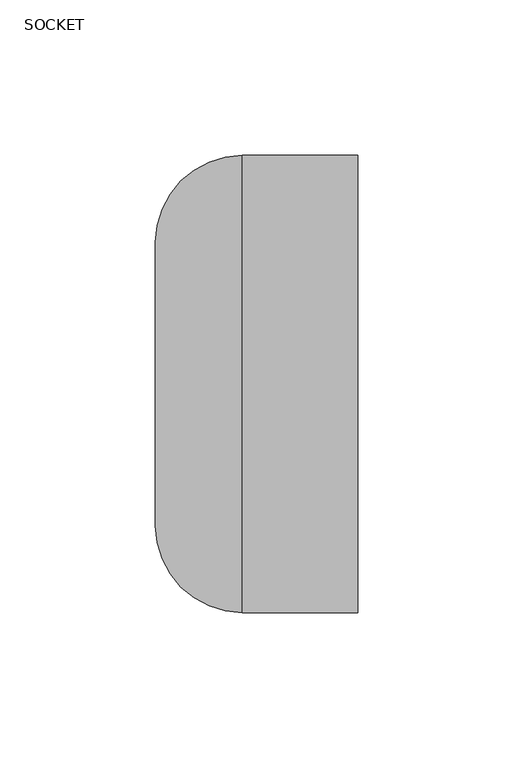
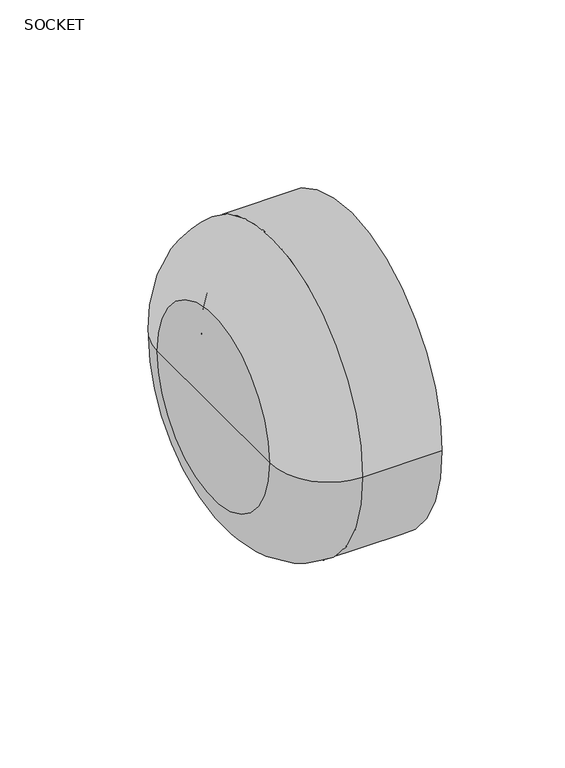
"""IFC4 building model written with IfcOpenShell, lengths in millimetres: pipe fitting geometry, Aquatherm - End Cap Socket : SOCKET."""

from ifc_helpers import new_model, si_unit, point, frame, origin, place, context, project, spatial, polyline, circle_curve, ellipse_curve, trimmed, source, transform, mapped, element, save
from ifc_brep_helpers import plane_surface, cylinder_surface, revolved_surface, advanced_brep


def socket_39f1f0a6(model_context):
    return source(origin(), model_context, "Body", "AdvancedBrep", [
        advanced_brep(
        [(-65.024, 0.0, 0.0), (-65.024, 45.593, 0.0), (-65.024, -45.593, 0.0), (-39.5426692, -54.991, 0.0), (-39.5426692, 54.991, 0.0), (-39.5426692, 50.8456692, 0.0), (-39.5426692, -50.8456692, 0.0), (0.0, -54.991, 0.0), (0.0, 54.991, 0.0), (0.0, -73.533, 0.0), (0.0, 73.533, 0.0), (-37.084, -73.533, 0.0), (-37.084, 73.533, 0.0), (-42.3366692, -48.0516692, 0.0), (-42.3366692, 48.0516692, 0.0), (-42.3366692, 0.0, 0.0)],
        [
            (0, 1),
            (1, 2, circle_curve(frame((-65.024, 0.0, 0.0), z_axis=(-1.0, 0.0, 0.0), x_axis=(0.0, 1.0, 0.0)), 45.593)),
            (2, 0),
            (2, 1, circle_curve(frame((-65.024, 0.0, 0.0), z_axis=(-1.0, 0.0, 0.0), x_axis=(0.0, 1.0, 0.0)), 45.593)),
            (3, 4, circle_curve(frame((-39.5426692, 0.0, 0.0), z_axis=(1.0, 0.0, 0.0), x_axis=(0.0, 1.0, 0.0)), 54.991)),
            (4, 5),
            (5, 6, circle_curve(frame((-39.5426692, 0.0, 0.0), z_axis=(-1.0, 0.0, 0.0), x_axis=(0.0, 1.0, 0.0)), 50.8456692)),
            (6, 3),
            (4, 3, circle_curve(frame((-39.5426692, 0.0, 0.0), z_axis=(1.0, 0.0, 0.0), x_axis=(0.0, 1.0, 0.0)), 54.991)),
            (6, 5, circle_curve(frame((-39.5426692, 0.0, 0.0), z_axis=(-1.0, 0.0, 0.0), x_axis=(0.0, 1.0, 0.0)), 50.8456692)),
            (7, 8, circle_curve(frame((0.0, 0.0, 0.0), z_axis=(1.0, 0.0, 0.0), x_axis=(0.0, 1.0, 0.0)), 54.991)),
            (8, 4),
            (3, 7),
            (8, 7, circle_curve(frame((0.0, 0.0, 0.0), z_axis=(1.0, 0.0, 0.0), x_axis=(0.0, 1.0, 0.0)), 54.991)),
            (9, 10, circle_curve(frame((0.0, 0.0, 0.0), z_axis=(1.0, 0.0, 0.0), x_axis=(0.0, 1.0, 0.0)), 73.533)),
            (10, 8),
            (7, 9),
            (10, 9, circle_curve(frame((0.0, 0.0, 0.0), z_axis=(1.0, 0.0, 0.0), x_axis=(0.0, 1.0, 0.0)), 73.533)),
            (11, 12, circle_curve(frame((-37.084, 0.0, 0.0), z_axis=(1.0, 0.0, 0.0), x_axis=(0.0, 1.0, 0.0)), 73.533)),
            (12, 10),
            (9, 11),
            (12, 11, circle_curve(frame((-37.084, 0.0, 0.0), z_axis=(1.0, 0.0, 0.0), x_axis=(0.0, 1.0, 0.0)), 73.533)),
            (1, 12, circle_curve(frame((-37.084, 45.593, 0.0), z_axis=(0.0, 0.0, -1.0), x_axis=(1.0, 0.0, 0.0)), 27.94)),
            (11, 2, circle_curve(frame((-37.084, -45.593, 0.0), z_axis=(0.0, 0.0, -1.0), x_axis=(1.0, 0.0, 0.0)), 27.94)),
            (13, 14, circle_curve(frame((-42.3366692, 0.0, 0.0), z_axis=(1.0, 0.0, 0.0), x_axis=(0.0, 1.0, 0.0)), 48.0516692)),
            (14, 15),
            (15, 13),
            (14, 13, circle_curve(frame((-42.3366692, 0.0, 0.0), z_axis=(1.0, 0.0, 0.0), x_axis=(0.0, 1.0, 0.0)), 48.0516692)),
            (5, 14, circle_curve(frame((-39.5426692, 48.0516692, 0.0), z_axis=(0.0, 0.0, 1.0), x_axis=(1.0, 0.0, 0.0)), 2.794)),
            (13, 6, circle_curve(frame((-39.5426692, -48.0516692, 0.0), z_axis=(0.0, 0.0, 1.0), x_axis=(1.0, 0.0, 0.0)), 2.794)),
        ],
        [
            plane_surface(frame((-65.024, 0.0, 0.0), z_axis=(-1.0, 0.0, 0.0), x_axis=(0.0, 1.0, 0.0))),
            plane_surface(frame((-39.5426692, 0.0, 0.0), z_axis=(1.0, 0.0, 0.0), x_axis=(0.0, 1.0, 0.0))),
            revolved_surface(polyline([(-39.5426692, 54.991, 0.0), (0.0, 54.991, 0.0)]), (-42.3366692, 0.0, 0.0), (-1.0, 0.0, 0.0)),
            plane_surface(frame((0.0, 0.0, 0.0), z_axis=(1.0, 0.0, 0.0), x_axis=(0.0, 1.0, 0.0))),
            cylinder_surface(frame((-42.3366692, 0.0, 0.0), z_axis=(-1.0, 0.0, 0.0), x_axis=(0.0, 1.0, 0.0)), 73.533),
            revolved_surface(trimmed(ellipse_curve(frame((-37.084, 45.593, 0.0), z_axis=(0.0, 0.0, 1.0), x_axis=(1.0, 0.0, 0.0)), 27.94, 27.94), [point((-37.084, 73.533, 0.0))], [point((-65.024, 45.593, 0.0))], True, "CARTESIAN"), (-42.3366692, 0.0, 0.0), (-1.0, 0.0, 0.0)),
            plane_surface(frame((-42.3366692, 0.0, 0.0), z_axis=(1.0, 0.0, 0.0), x_axis=(0.0, 1.0, 0.0))),
            revolved_surface(trimmed(ellipse_curve(frame((-39.5426692, 48.0516692, 0.0), z_axis=(0.0, 0.0, -1.0), x_axis=(1.0, 0.0, 0.0)), 2.794, 2.794), [point((-42.3366692, 48.0516692, 0.0))], [point((-39.5426692, 50.8456692, 0.0))], True, "CARTESIAN"), (-42.3366692, 0.0, 0.0), (-1.0, 0.0, 0.0)),
        ],
        [
            (0, [[1, 2, 3]]),
            (0, [[-3, 4, -1]]),
            (1, [[5, 6, 7, 8]]),
            (1, [[9, -8, 10, -6]]),
            (2, [[11, 12, -5, 13]]),
            (2, [[14, -13, -9, -12]]),
            (3, [[15, 16, -11, 17]]),
            (3, [[18, -17, -14, -16]]),
            (4, [[19, 20, -15, 21]]),
            (4, [[22, -21, -18, -20]]),
            (5, [[-2, 23, -19, 24]]),
            (5, [[-4, -24, -22, -23]]),
            (6, [[25, 26, 27]]),
            (6, [[28, -27, -26]]),
            (7, [[-7, 29, -25, 30]]),
            (7, [[-10, -30, -28, -29]]),
        ],
    ),
    ])


if __name__ == "__main__":
    model = new_model("IFC4")
    model_context = context("Model", 3, world=origin())
    ifc_project = project(units=[si_unit("LENGTHUNIT", "METRE", prefix="MILLI")], contexts=[model_context])
    site = spatial("IfcSite", under=ifc_project)
    building = spatial("IfcBuilding", under=site)
    placement = place(None, origin())
    ifc_socket_shape = socket_39f1f0a6(model_context)
    element("IfcPipeFitting", 1, ObjectType="Aquatherm - End Cap Socket : SOCKET", at=placement, inside=building, context=model_context, shape_type="MappedRepresentation", body=[
        mapped(ifc_socket_shape, transform((0.0, 0.0, 0.0), x_axis=(1.0, 0.0, 0.0), y_axis=(0.0, 1.0, 0.0), z_axis=(0.0, 0.0, 1.0))),
    ])
    save(model, "model.ifc")
